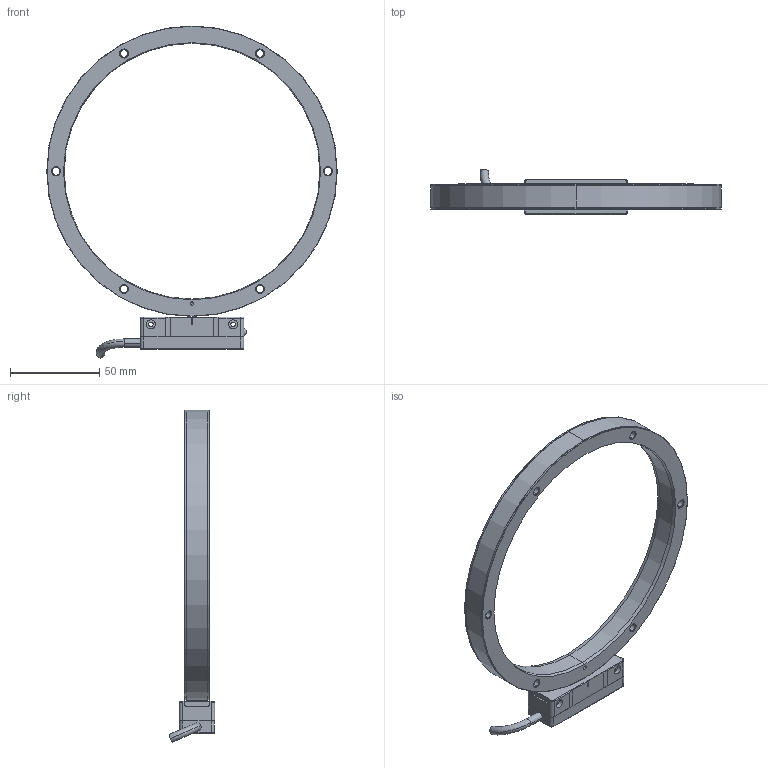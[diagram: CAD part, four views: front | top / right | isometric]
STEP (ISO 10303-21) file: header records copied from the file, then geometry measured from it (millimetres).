
FILE_DESCRIPTION (( 'STEP AP214' ), '1' );
FILE_NAME ('DHRx_SAR162_exposed.STEP', '2024-02-02T13:50:19', ( '' ), ( '' ), 'SwSTEP 2.0', 'SolidWorks 2022', '' );
FILE_SCHEMA (( 'AUTOMOTIVE_DESIGN' ));
Length unit declared in the file: millimetre
Products named in the file (1): DHRx_SAR162_exposed
Bounding box: 162.4 x 25.55 x 185.65 mm (x, y, z)
Volume: 84007.5 mm3; surface area: 29811.2 mm2
Topology: 2 solids, 2 shells, 2121 faces, 5771 edges, 3803 vertices
Faces by surface type: plane 1721, bspline 186, cylinder 138, cone 48, torus 26, sphere 2
Entity records: 96857 total; most frequent: CARTESIAN_POINT 20818, ORIENTED_EDGE 11512, DIRECTION 9669, EDGE_CURVE 5756, LINE 4963, VECTOR 4963, VERTEX_POINT 3802, AXIS2_PLACEMENT_3D 2353
